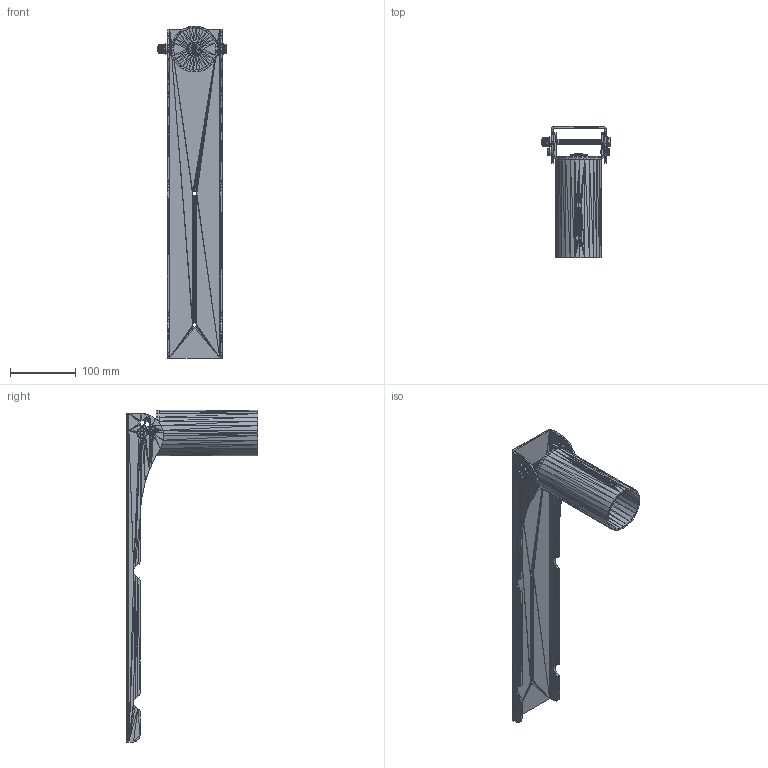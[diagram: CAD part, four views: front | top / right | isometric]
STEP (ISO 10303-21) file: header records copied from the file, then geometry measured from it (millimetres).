
FILE_DESCRIPTION((''),'2;1');
FILE_NAME('051090', '2026-02-09T14:17:55', (''), (''), 'ImageToStl.com STEP Converter','', '');
FILE_SCHEMA(('AUTOMOTIVE_DESIGN_CC2'));
Length unit declared in the file: metre
Products named in the file (1): product0
Bounding box: 104.7 x 200 x 505 mm (x, y, z)
Surface area: 215106.8 mm2 (no closed solid volume)
Topology: 0 solids, 9514 shells, 9514 faces, 28542 edges, 4737 vertices
Faces by surface type: plane 9514
Entity records: 218810 total; most frequent: DIRECTION 47572, ORIENTED_EDGE 28542, EDGE_CURVE 28542, LINE 28542, VECTOR 28542, AXIS2_PLACEMENT_3D 9515, FACE_SURFACE 9514, PLANE 9514
